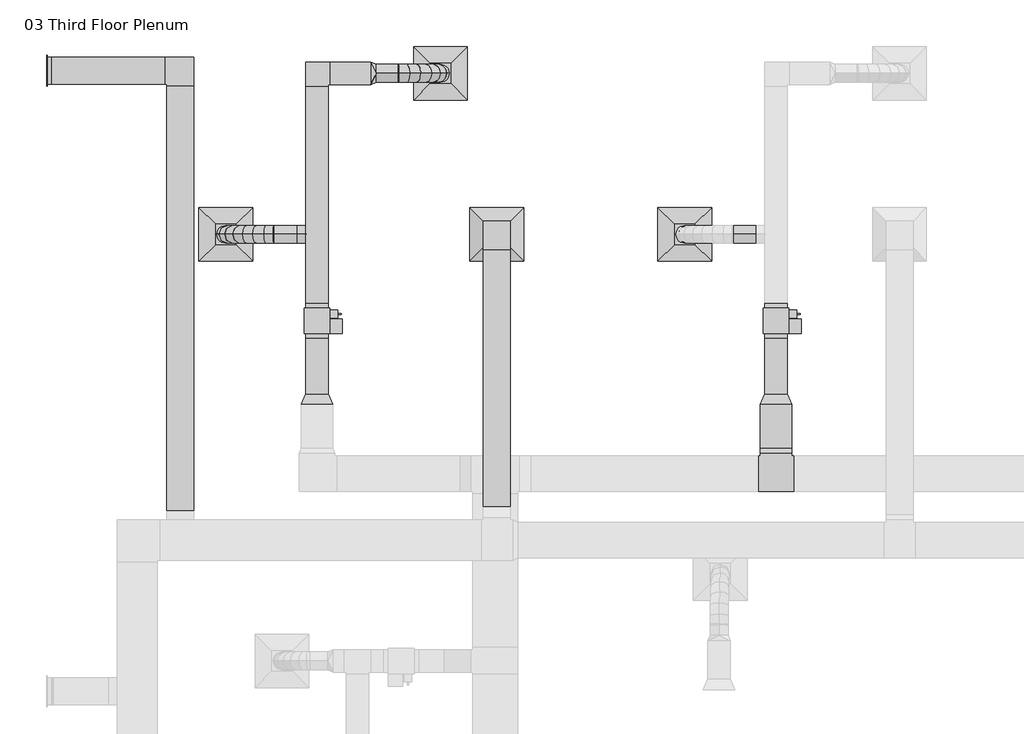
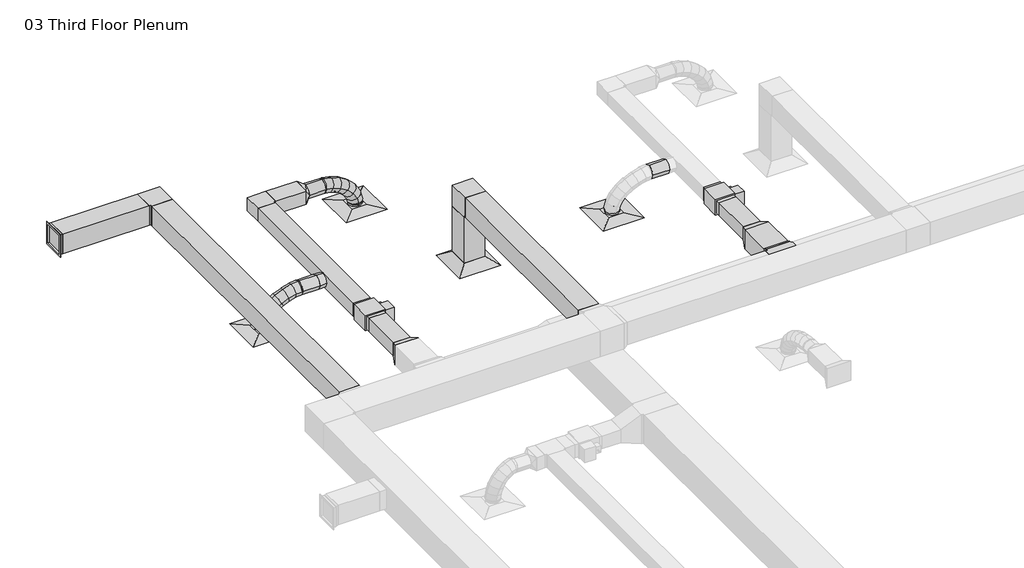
# One storey, part 5 of 9: 14 duct segments, 9 duct fittings, 5 air terminals, 2 proxies.
"""IFC4 building model written with IfcOpenShell, lengths in millimetres."""

from ifc_helpers import new_model, si_unit, point, frame, frame_2d, origin, place, context, project, spatial, polyline, circle_curve, ellipse_curve, trimmed, segment, composite_curve, outline, extrude, transform, mapped, element, save
from ifc_brep_helpers import plane_surface, cylinder_surface, advanced_brep
from components import return_diffuser_d30_returndiffuser_24x24_12x12_connection_ff543d60, return_grille_rectangular_hosted_d30_returngrille_5679211a, supply_diffuser_rectangular_face_round_neck_d30_6390248a, bcn6785_vav_d30_vav1_8c327968, rectangular_elbow_mitered_standard_f09b78ec, rectangular_elbow_mitered_standard_4ff1c4e8, rectangular_tee_standard_6c605370, rectangular_transition_angle_45_degree_183635ce, rectangular_transition_angle_45_degree_4f949d70, rectangular_transition_angle_45_degree_74625674, rectangular_to_round_transition_angle_45_degree_e9430680, round_takeoff_standard_1127d77f

model = new_model("IFC4")

# Units and contexts
model_context = context("Model", 3, world=origin())
ifc_project = project(units=[si_unit("LENGTHUNIT", "METRE", prefix="MILLI")], contexts=[model_context])

# Site, building, storey
site = spatial("IfcSite", under=ifc_project)
building = spatial("IfcBuilding", under=site)
storey = spatial("IfcBuildingStorey", under=building, Name="03 Third Floor Plenum", Elevation=7620.0)

# Air terminals
placement = place(None, origin())
return_diffuser_d30_returndiffuser_24x24_12x12_connection_shape = return_diffuser_d30_returndiffuser_24x24_12x12_connection_ff543d60(model_context)
element("IfcAirTerminal", 1, ObjectType="Return Diffuser : D30_ReturnDiffuser_24x24 12x12 Connection", at=placement, inside=storey, context=model_context, shape_type="MappedRepresentation", body=[
    mapped(return_diffuser_d30_returndiffuser_24x24_12x12_connection_shape, transform((-3890.7542617, 10036.7671675, 7620.0), x_axis=(1.0, 0.0, 0.0), y_axis=(0.0, 1.0, 0.0), z_axis=(0.0, 0.0, 1.0))),
])
return_grille_rectangular_hosted_d30_returngrille_shape = return_grille_rectangular_hosted_d30_returngrille_5679211a(model_context)
element("IfcAirTerminal", 2, ObjectType="Return Grille - Rectangular - Hosted : D30_ReturnGrille", at=placement, inside=storey, context=model_context, shape_type="MappedRepresentation", body=[
    mapped(return_grille_rectangular_hosted_d30_returngrille_shape, transform((-8996.1542617, 11896.5101985, 8610.3381149), x_axis=(0.0, 0.0, 1.0), y_axis=(0.0, 1.0, 0.0), z_axis=(-1.0, 0.0, 0.0))),
])
supply_diffuser_rectangular_face_round_neck_d30_shape = supply_diffuser_rectangular_face_round_neck_d30_6390248a(model_context)
element("IfcAirTerminal", 3, ObjectType="Supply Diffuser - Rectangular Face Round Neck : D30_SupplyDiffuser_24x24 8 Neck", at=placement, inside=storey, context=model_context, shape_type="MappedRepresentation", body=[
    mapped(supply_diffuser_rectangular_face_round_neck_d30_shape, transform((-1757.1542617, 10036.7671675, 7620.0), x_axis=(1.0, 0.0, 0.0), y_axis=(0.0, 1.0, 0.0), z_axis=(0.0, 0.0, 1.0))),
])
element("IfcAirTerminal", 4, ObjectType="Supply Diffuser - Rectangular Face Round Neck : D30_SupplyDiffuser_24x24 8 Neck", at=placement, inside=storey, context=model_context, shape_type="MappedRepresentation", body=[
    mapped(supply_diffuser_rectangular_face_round_neck_d30_shape, transform((-4530.5167617, 11865.5671675, 7620.0), x_axis=(1.0, 0.0, 0.0), y_axis=(0.0, 1.0, 0.0), z_axis=(0.0, 0.0, 1.0))),
])
element("IfcAirTerminal", 5, ObjectType="Supply Diffuser - Rectangular Face Round Neck : D30_SupplyDiffuser_24x24 8 Neck", at=placement, inside=storey, context=model_context, shape_type="MappedRepresentation", body=[
    mapped(supply_diffuser_rectangular_face_round_neck_d30_shape, transform((-6968.9167617, 10036.7671675, 7620.0), x_axis=(1.0, 0.0, 0.0), y_axis=(0.0, 1.0, 0.0), z_axis=(0.0, 0.0, 1.0))),
])

# Proxies
bcn6785_vav_d30_vav1_shape = bcn6785_vav_d30_vav1_8c327968(model_context)
element("IfcBuildingElementProxy", 6, Name="BCN6785_VAV : D30_VAV1", ObjectType="BCN6785_VAV : D30_VAV1", at=placement, inside=storey, context=model_context, shape_type="MappedRepresentation", body=[
    mapped(bcn6785_vav_d30_vav1_shape, transform((-720.748366, 8909.6421675, 7956.55), x_axis=(0.0, 1.0, 0.0), y_axis=(-1.0, 0.0, 0.0), z_axis=(0.0, 0.0, 1.0))),
])
element("IfcBuildingElementProxy", 7, Name="BCN6785_VAV : D30_VAV1", ObjectType="BCN6785_VAV : D30_VAV1", at=placement, inside=storey, context=model_context, shape_type="MappedRepresentation", body=[
    mapped(bcn6785_vav_d30_vav1_shape, transform((-5932.510866, 8909.6421675, 7956.55), x_axis=(0.0, 1.0, 0.0), y_axis=(-1.0, 0.0, 0.0), z_axis=(0.0, 0.0, 1.0))),
])

# Duct fittings
rectangular_elbow_mitered_standard_shape = rectangular_elbow_mitered_standard_f09b78ec(model_context)
element("IfcDuctFitting", 8, ObjectType="Rectangular Elbow - Mitered : Standard", at=placement, inside=storey, context=model_context, shape_type="MappedRepresentation", body=[
    mapped(rectangular_elbow_mitered_standard_shape, transform((-5932.510866, 11865.5671675, 8077.2), x_axis=(-1.0, 0.0, 0.0), y_axis=(0.0, -1.0, 0.0), z_axis=(0.0, 0.0, 1.0))),
])
rectangular_elbow_mitered_standard_2_shape = rectangular_elbow_mitered_standard_4ff1c4e8(model_context)
element("IfcDuctFitting", 9, ObjectType="Rectangular Elbow - Mitered : Standard", at=placement, inside=storey, context=model_context, shape_type="MappedRepresentation", body=[
    mapped(rectangular_elbow_mitered_standard_2_shape, transform((-3890.7542617, 10036.7671675, 8610.6), x_axis=(0.0, 0.0, 1.0), y_axis=(0.0, -1.0, 0.0), z_axis=(1.0, 0.0, 0.0))),
])
element("IfcDuctFitting", 10, ObjectType="Rectangular Elbow - Mitered : Standard", at=placement, inside=storey, context=model_context, shape_type="MappedRepresentation", body=[
    mapped(rectangular_elbow_mitered_standard_2_shape, transform((-7483.9216887, 11896.5101985, 8610.6), x_axis=(0.0, 1.0, 0.0), y_axis=(-0.9999999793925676, 0.0, -0.00020301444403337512), z_axis=(-0.00020301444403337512, 0.0, 0.9999999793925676))),
])
rectangular_tee_standard_shape = rectangular_tee_standard_6c605370(model_context)
element("IfcDuctFitting", 11, ObjectType="Rectangular Tee : Standard", at=placement, inside=storey, context=model_context, shape_type="MappedRepresentation", body=[
    mapped(rectangular_tee_standard_shape, transform((-720.748366, 7316.8809317, 8077.2), x_axis=(-1.0, 0.0, 0.0), y_axis=(0.0, -1.0, 0.0), z_axis=(0.0, 0.0, 1.0))),
])
rectangular_transition_angle_45_degree_shape = rectangular_transition_angle_45_degree_183635ce(model_context)
element("IfcDuctFitting", 12, ObjectType="Rectangular Transition - Angle : 45 Degree", at=placement, inside=storey, context=model_context, shape_type="MappedRepresentation", body=[
    mapped(rectangular_transition_angle_45_degree_shape, transform((-720.748366, 8101.2001185, 8077.2), x_axis=(0.0, 1.0, 0.0), y_axis=(-1.0, 0.0, 0.0), z_axis=(0.0, 0.0, 1.0))),
])
rectangular_transition_angle_45_degree_2_shape = rectangular_transition_angle_45_degree_4f949d70(model_context)
element("IfcDuctFitting", 13, ObjectType="Rectangular Transition - Angle : 45 Degree", at=placement, inside=storey, context=model_context, shape_type="MappedRepresentation", body=[
    mapped(rectangular_transition_angle_45_degree_2_shape, transform((-720.748366, 7545.4809317, 8077.2), x_axis=(0.0, 1.0, 0.0), y_axis=(-1.0, 0.0, 0.0), z_axis=(0.0, 0.0, 1.0))),
])
rectangular_transition_angle_45_degree_3_shape = rectangular_transition_angle_45_degree_74625674(model_context)
element("IfcDuctFitting", 14, ObjectType="Rectangular Transition - Angle : 45 Degree", at=placement, inside=storey, context=model_context, shape_type="MappedRepresentation", body=[
    mapped(rectangular_transition_angle_45_degree_3_shape, transform((-5932.510866, 8223.8421675, 8077.2), x_axis=(0.0, -1.0, 0.0), y_axis=(1.0, 0.0, 0.0), z_axis=(0.0, 0.0, 1.0))),
])
rectangular_to_round_transition_angle_45_degree_shape = rectangular_to_round_transition_angle_45_degree_e9430680(model_context)
element("IfcDuctFitting", 15, ObjectType="Rectangular to Round Transition - Angle : 45 Degree", at=placement, inside=storey, context=model_context, shape_type="MappedRepresentation", body=[
    mapped(rectangular_to_round_transition_angle_45_degree_shape, transform((-5322.910866, 11865.5671675, 8077.2), x_axis=(1.0, 0.0, 0.0), y_axis=(0.0, 1.0, 0.0), z_axis=(0.0, 0.0, 1.0))),
])
round_takeoff_standard_shape = round_takeoff_standard_1127d77f(model_context)
element("IfcDuctFitting", 16, ObjectType="Round Takeoff : Standard", at=placement, inside=storey, context=model_context, shape_type="MappedRepresentation", body=[
    mapped(round_takeoff_standard_shape, transform((-6059.510866, 10036.7671675, 8077.2), x_axis=(-1.0, 0.0, 0.0), y_axis=(0.0, 1.0, 0.0), z_axis=(0.0, 0.0, -1.0))),
])

# Duct segments
element("IfcDuctSegment", 17, ObjectType="Flex - Round", at=placement, inside=storey, context=model_context, shape_type="AdvancedBrep", body=[
    advanced_brep(
    [(-5018.110866, 11967.1671675, 8077.2), (-5018.110866, 11865.5671675, 7975.6), (-5018.110866, 11763.9671675, 8077.2), (-5018.110866, 11865.5671675, 8178.8), (-5004.1026235, 11967.1671675, 8077.2), (-5012.1622602, 11865.5671675, 7975.6), (-5004.1026235, 11763.9671675, 8077.2), (-4996.0429868, 11865.5671675, 8178.8), (-4530.5167617, 11967.1671675, 7673.975), (-4428.9167617, 11865.5671675, 7673.975), (-4530.5167617, 11763.9671675, 7673.975), (-4632.1167617, 11865.5671675, 7673.975), (-4908.760954, 11967.1671675, 8061.9778475), (-4935.2283444, 11865.5671675, 7963.3168105), (-4908.760954, 11763.9671675, 8061.9778475), (-4882.2935635, 11865.5671675, 8160.6388846), (-4797.960837, 11967.1671675, 8019.5285565), (-4843.6942183, 11865.5671675, 7928.2486277), (-4797.960837, 11763.9671675, 8019.5285565), (-4752.2274557, 11865.5671675, 8110.8084854), (-4695.2234372, 11967.1671675, 7954.6778766), (-4758.3367744, 11865.5671675, 7874.3686553), (-4695.2234372, 11763.9671675, 7954.6778766), (-4632.1100999, 11865.5671675, 8034.987098), (-4610.0616766, 11967.1671675, 7872.2515575), (-4690.0382413, 11865.5671675, 7808.2639076), (-4610.0616766, 11763.9671675, 7872.2515575), (-4530.085112, 11865.5671675, 7936.2392074), (-4551.9884774, 11967.1671675, 7777.0753487), (-4646.5245486, 11865.5671675, 7736.9492848), (-4551.9884774, 11763.9671675, 7777.0753487), (-4457.4524062, 11865.5671675, 7817.2014127), (-4530.5167617, 11967.1671675, 7694.6897958), (-4632.1167617, 11865.5671675, 7681.6675594), (-4530.5167617, 11763.9671675, 7694.6897958), (-4428.9167617, 11865.5671675, 7707.7120321)],
    [
        (0, 1, circle_curve(frame((-5018.110866, 11865.5671675, 8077.2), z_axis=(-1.0, 0.0, 0.0), x_axis=(0.0, 1.0, 0.0)), 101.6)),
        (1, 2, circle_curve(frame((-5018.110866, 11865.5671675, 8077.2), z_axis=(-1.0, 0.0, 0.0), x_axis=(0.0, 1.0, 0.0)), 101.6)),
        (2, 3, circle_curve(frame((-5018.110866, 11865.5671675, 8077.2), z_axis=(-1.0, 0.0, 0.0), x_axis=(0.0, 1.0, 0.0)), 101.6)),
        (3, 0, circle_curve(frame((-5018.110866, 11865.5671675, 8077.2), z_axis=(-1.0, 0.0, 0.0), x_axis=(0.0, 1.0, 0.0)), 101.6)),
        (0, 4),
        (4, 5, ellipse_curve(frame((-5004.1026235, 11865.5671675, 8077.2), z_axis=(-0.9968683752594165, 0.0, 0.07907871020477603), x_axis=(-0.07907871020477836, 0.0, -0.9968683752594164)), 101.9191726, 101.6)),
        (5, 1),
        (5, 6, ellipse_curve(frame((-5004.1026235, 11865.5671675, 8077.2), z_axis=(-0.9968683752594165, 0.0, 0.07907871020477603), x_axis=(-0.07907871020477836, 0.0, -0.9968683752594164)), 101.9191726, 101.6)),
        (6, 2),
        (6, 7, ellipse_curve(frame((-5004.1026235, 11865.5671675, 8077.2), z_axis=(-0.9968683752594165, 0.0, 0.07907871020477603), x_axis=(-0.07907871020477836, 0.0, -0.9968683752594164)), 101.9191726, 101.6)),
        (7, 3),
        (7, 4, ellipse_curve(frame((-5004.1026235, 11865.5671675, 8077.2), z_axis=(-0.9968683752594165, 0.0, 0.07907871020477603), x_axis=(-0.07907871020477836, 0.0, -0.9968683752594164)), 101.9191726, 101.6)),
        (8, 9, circle_curve(frame((-4530.5167617, 11865.5671675, 7673.975), z_axis=(0.0, 0.0, -1.0), x_axis=(0.0, 1.0, 0.0)), 101.6)),
        (9, 10, circle_curve(frame((-4530.5167617, 11865.5671675, 7673.975), z_axis=(0.0, 0.0, -1.0), x_axis=(0.0, 1.0, 0.0)), 101.6)),
        (10, 11, circle_curve(frame((-4530.5167617, 11865.5671675, 7673.975), z_axis=(0.0, 0.0, -1.0), x_axis=(0.0, 1.0, 0.0)), 101.6)),
        (11, 8, circle_curve(frame((-4530.5167617, 11865.5671675, 7673.975), z_axis=(0.0, 0.0, -1.0), x_axis=(0.0, 1.0, 0.0)), 101.6)),
        (4, 12),
        (12, 13, ellipse_curve(frame((-4908.760954, 11865.5671675, 8061.9778475), z_axis=(-0.9658493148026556, 0.0, 0.2591044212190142), x_axis=(-0.25910442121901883, 0.0, -0.9658493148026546)), 102.1495129, 101.6)),
        (13, 5),
        (13, 14, ellipse_curve(frame((-4908.760954, 11865.5671675, 8061.9778475), z_axis=(-0.9658493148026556, 0.0, 0.2591044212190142), x_axis=(-0.25910442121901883, 0.0, -0.9658493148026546)), 102.1495129, 101.6)),
        (14, 6),
        (14, 15, ellipse_curve(frame((-4908.760954, 11865.5671675, 8061.9778475), z_axis=(-0.9658493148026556, 0.0, 0.2591044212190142), x_axis=(-0.25910442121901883, 0.0, -0.9658493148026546)), 102.1495129, 101.6)),
        (15, 7),
        (15, 12, ellipse_curve(frame((-4908.760954, 11865.5671675, 8061.9778475), z_axis=(-0.9658493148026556, 0.0, 0.2591044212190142), x_axis=(-0.25910442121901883, 0.0, -0.9658493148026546)), 102.1495129, 101.6)),
        (12, 16),
        (16, 17, ellipse_curve(frame((-4797.960837, 11865.5671675, 8019.5285565), z_axis=(-0.8940608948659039, 0.0, 0.4479454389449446), x_axis=(-0.4479454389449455, 0.0, -0.8940608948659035)), 102.0958744, 101.6)),
        (17, 13),
        (17, 18, ellipse_curve(frame((-4797.960837, 11865.5671675, 8019.5285565), z_axis=(-0.8940608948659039, 0.0, 0.4479454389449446), x_axis=(-0.4479454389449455, 0.0, -0.8940608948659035)), 102.0958744, 101.6)),
        (18, 14),
        (18, 19, ellipse_curve(frame((-4797.960837, 11865.5671675, 8019.5285565), z_axis=(-0.8940608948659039, 0.0, 0.4479454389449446), x_axis=(-0.4479454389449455, 0.0, -0.8940608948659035)), 102.0958744, 101.6)),
        (19, 15),
        (19, 16, ellipse_curve(frame((-4797.960837, 11865.5671675, 8019.5285565), z_axis=(-0.8940608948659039, 0.0, 0.4479454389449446), x_axis=(-0.4479454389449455, 0.0, -0.8940608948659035)), 102.0958744, 101.6)),
        (16, 20),
        (20, 21, ellipse_curve(frame((-4695.2234372, 11865.5671675, 7954.6778766), z_axis=(-0.7862553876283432, 0.0, 0.6179016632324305), x_axis=(-0.6179016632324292, 0.0, -0.7862553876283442)), 102.141394, 101.6)),
        (21, 17),
        (21, 22, ellipse_curve(frame((-4695.2234372, 11865.5671675, 7954.6778766), z_axis=(-0.7862553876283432, 0.0, 0.6179016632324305), x_axis=(-0.6179016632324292, 0.0, -0.7862553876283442)), 102.141394, 101.6)),
        (22, 18),
        (22, 23, ellipse_curve(frame((-4695.2234372, 11865.5671675, 7954.6778766), z_axis=(-0.7862553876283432, 0.0, 0.6179016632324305), x_axis=(-0.6179016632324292, 0.0, -0.7862553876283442)), 102.141394, 101.6)),
        (23, 19),
        (23, 20, ellipse_curve(frame((-4695.2234372, 11865.5671675, 7954.6778766), z_axis=(-0.7862553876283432, 0.0, 0.6179016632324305), x_axis=(-0.6179016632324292, 0.0, -0.7862553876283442)), 102.141394, 101.6)),
        (20, 24),
        (24, 25, ellipse_curve(frame((-4610.0616766, 11865.5671675, 7872.2515575), z_axis=(-0.6247331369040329, 0.0, 0.7808383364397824), x_axis=(-0.780838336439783, 0.0, -0.6247331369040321)), 102.4239729, 101.6)),
        (25, 21),
        (25, 26, ellipse_curve(frame((-4610.0616766, 11865.5671675, 7872.2515575), z_axis=(-0.6247331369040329, 0.0, 0.7808383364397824), x_axis=(-0.780838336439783, 0.0, -0.6247331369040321)), 102.4239729, 101.6)),
        (26, 22),
        (26, 27, ellipse_curve(frame((-4610.0616766, 11865.5671675, 7872.2515575), z_axis=(-0.6247331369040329, 0.0, 0.7808383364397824), x_axis=(-0.780838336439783, 0.0, -0.6247331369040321)), 102.4239729, 101.6)),
        (27, 23),
        (27, 24, ellipse_curve(frame((-4610.0616766, 11865.5671675, 7872.2515575), z_axis=(-0.6247331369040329, 0.0, 0.7808383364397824), x_axis=(-0.780838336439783, 0.0, -0.6247331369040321)), 102.4239729, 101.6)),
        (24, 28),
        (28, 29, ellipse_curve(frame((-4551.9884774, 11865.5671675, 7777.0753487), z_axis=(-0.3907136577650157, 0.0, 0.9205122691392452), x_axis=(-0.9205122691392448, 0.0, -0.3907136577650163)), 102.6994146, 101.6)),
        (29, 25),
        (29, 30, ellipse_curve(frame((-4551.9884774, 11865.5671675, 7777.0753487), z_axis=(-0.3907136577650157, 0.0, 0.9205122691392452), x_axis=(-0.9205122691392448, 0.0, -0.3907136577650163)), 102.6994146, 101.6)),
        (30, 26),
        (30, 31, ellipse_curve(frame((-4551.9884774, 11865.5671675, 7777.0753487), z_axis=(-0.3907136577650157, 0.0, 0.9205122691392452), x_axis=(-0.9205122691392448, 0.0, -0.3907136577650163)), 102.6994146, 101.6)),
        (31, 27),
        (31, 28, ellipse_curve(frame((-4551.9884774, 11865.5671675, 7777.0753487), z_axis=(-0.3907136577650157, 0.0, 0.9205122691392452), x_axis=(-0.9205122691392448, 0.0, -0.3907136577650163)), 102.6994146, 101.6)),
        (28, 32),
        (32, 33, ellipse_curve(frame((-4530.5167617, 11865.5671675, 7694.6897958), z_axis=(-0.1271316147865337, 0.0, 0.9918858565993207), x_axis=(-0.9918858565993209, 0.0, -0.12713161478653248)), 102.431141, 101.6)),
        (33, 29),
        (33, 34, ellipse_curve(frame((-4530.5167617, 11865.5671675, 7694.6897958), z_axis=(-0.1271316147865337, 0.0, 0.9918858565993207), x_axis=(-0.9918858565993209, 0.0, -0.12713161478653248)), 102.431141, 101.6)),
        (34, 30),
        (34, 35, ellipse_curve(frame((-4530.5167617, 11865.5671675, 7694.6897958), z_axis=(-0.1271316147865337, 0.0, 0.9918858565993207), x_axis=(-0.9918858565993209, 0.0, -0.12713161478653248)), 102.431141, 101.6)),
        (35, 31),
        (35, 32, ellipse_curve(frame((-4530.5167617, 11865.5671675, 7694.6897958), z_axis=(-0.1271316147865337, 0.0, 0.9918858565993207), x_axis=(-0.9918858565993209, 0.0, -0.12713161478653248)), 102.431141, 101.6)),
        (32, 8),
        (11, 33),
        (10, 34),
        (9, 35),
    ],
    [
        plane_surface(frame((-5018.110866, 11865.5671675, 7975.6), z_axis=(-1.0, 0.0, 0.0), x_axis=(0.0, 1.0, 0.0))),
        cylinder_surface(frame((-5018.110866, 11865.5671675, 8077.2), z_axis=(-1.0, 0.0, 0.0), x_axis=(0.0, 1.0, 0.0)), 101.6),
        plane_surface(frame((-4530.5167617, 11763.9671675, 7673.975), z_axis=(0.0, 0.0, -1.0), x_axis=(-1.0, 0.0, 0.0))),
        cylinder_surface(frame((-5004.1026235, 11865.5671675, 8077.2), z_axis=(-0.9874931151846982, 0.0, 0.15766213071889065), x_axis=(0.0, 1.0, 0.0)), 101.6),
        cylinder_surface(frame((-4908.760954, 11865.5671675, 8061.9778475), z_axis=(-0.933813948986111, 0.0, 0.3577590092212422), x_axis=(0.0, 1.0, 0.0)), 101.6),
        cylinder_surface(frame((-4797.960837, 11865.5671675, 8019.5285565), z_axis=(-0.8456230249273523, 0.0, 0.5337805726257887), x_axis=(0.0, 1.0, 0.0)), 101.6),
        cylinder_surface(frame((-4695.2234372, 11865.5671675, 7954.6778766), z_axis=(-0.7185527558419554, 0.0, 0.6954724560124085), x_axis=(0.0, 1.0, 0.0)), 101.6),
        cylinder_surface(frame((-4610.0616766, 11865.5671675, 7872.2515575), z_axis=(-0.5208619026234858, 0.0, 0.8536409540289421), x_axis=(0.0, 1.0, 0.0)), 101.6),
        cylinder_surface(frame((-4551.9884774, 11865.5671675, 7777.0753487), z_axis=(-0.25220010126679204, 0.0, 0.9676751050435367), x_axis=(0.0, 1.0, 0.0)), 101.6),
        cylinder_surface(frame((-4530.5167617, 11865.5671675, 7694.6897958), z_axis=(0.0, 0.0, 1.0), x_axis=(0.0, 1.0, 0.0)), 101.6),
    ],
    [
        (0, [[1, 2, 3, 4]]),
        (1, [[-1, 5, 6, 7]]),
        (1, [[-2, -7, 8, 9]]),
        (1, [[-3, -9, 10, 11]]),
        (1, [[-4, -11, 12, -5]]),
        (2, [[13, 14, 15, 16]]),
        (3, [[-6, 17, 18, 19]]),
        (3, [[-8, -19, 20, 21]]),
        (3, [[-10, -21, 22, 23]]),
        (3, [[-12, -23, 24, -17]]),
        (4, [[-18, 25, 26, 27]]),
        (4, [[-20, -27, 28, 29]]),
        (4, [[-22, -29, 30, 31]]),
        (4, [[-24, -31, 32, -25]]),
        (5, [[-26, 33, 34, 35]]),
        (5, [[-28, -35, 36, 37]]),
        (5, [[-30, -37, 38, 39]]),
        (5, [[-32, -39, 40, -33]]),
        (6, [[-34, 41, 42, 43]]),
        (6, [[-36, -43, 44, 45]]),
        (6, [[-38, -45, 46, 47]]),
        (6, [[-40, -47, 48, -41]]),
        (7, [[-42, 49, 50, 51]]),
        (7, [[-44, -51, 52, 53]]),
        (7, [[-46, -53, 54, 55]]),
        (7, [[-48, -55, 56, -49]]),
        (8, [[-50, 57, 58, 59]]),
        (8, [[-52, -59, 60, 61]]),
        (8, [[-54, -61, 62, 63]]),
        (8, [[-56, -63, 64, -57]]),
        (9, [[-58, 65, -16, 66]]),
        (9, [[-60, -66, -15, 67]]),
        (9, [[-62, -67, -14, 68]]),
        (9, [[-64, -68, -13, -65]]),
    ],
),
])
element("IfcDuctSegment", 18, ObjectType="Flex - Round", at=placement, inside=storey, context=model_context, shape_type="AdvancedBrep", body=[
    advanced_brep(
    [(-6415.110866, 9935.1671675, 8077.2), (-6415.110866, 10036.7671675, 7975.6), (-6415.110866, 10138.3671675, 8077.2), (-6415.110866, 10036.7671675, 8178.8), (-6425.313114, 9935.1671675, 8077.2), (-6419.6375929, 10036.7671675, 7975.6), (-6425.313114, 10138.3671675, 8077.2), (-6430.9886351, 10036.7671675, 8178.8), (-6968.9167617, 9935.1671675, 7673.975), (-7070.5167617, 10036.7671675, 7673.975), (-6968.9167617, 10138.3671675, 7673.975), (-6867.3167617, 10036.7671675, 7673.975), (-6517.6882887, 9935.1671675, 8066.847276), (-6498.355884, 10036.7671675, 7966.7778382), (-6517.6882887, 10138.3671675, 8066.847276), (-6537.0206935, 10036.7671675, 8166.9167138), (-6624.7645777, 9935.1671675, 8037.2048655), (-6590.1922131, 10036.7671675, 7941.3543743), (-6624.7645777, 10138.3671675, 8037.2048655), (-6659.3369422, 10036.7671675, 8133.0553568), (-6728.9479541, 9935.1671675, 7990.396411), (-6679.8703152, 10036.7671675, 7901.0629813), (-6728.9479541, 10138.3671675, 7990.396411), (-6778.025593, 10036.7671675, 8079.7298408), (-6822.8466394, 9935.1671675, 7928.5455549), (-6758.7314142, 10036.7671675, 7849.1173499), (-6822.8466394, 10138.3671675, 7928.5455549), (-6886.9618646, 10036.7671675, 8007.9737598), (-6899.0688549, 9935.1671675, 7853.7759394), (-6818.5794244, 10036.7671675, 7790.4098894), (-6899.0688549, 10138.3671675, 7853.7759394), (-6979.5582854, 10036.7671675, 7917.1419893), (-6950.2228219, 9935.1671675, 7768.211207), (-6855.3291037, 10036.7671675, 7728.9390659), (-6950.2228219, 10138.3671675, 7768.211207), (-7045.11654, 10036.7671675, 7807.483348), (-6968.9167617, 9935.1671675, 7693.7444887), (-6867.3167617, 10036.7671675, 7681.1866092), (-6968.9167617, 10138.3671675, 7693.7444887), (-7070.5167617, 10036.7671675, 7706.3023681)],
    [
        (0, 1, circle_curve(frame((-6415.110866, 10036.7671675, 8077.2), z_axis=(1.0, 0.0, 0.0), x_axis=(0.0, -1.0, 0.0)), 101.6)),
        (1, 2, circle_curve(frame((-6415.110866, 10036.7671675, 8077.2), z_axis=(1.0, 0.0, 0.0), x_axis=(0.0, -1.0, 0.0)), 101.6)),
        (2, 3, circle_curve(frame((-6415.110866, 10036.7671675, 8077.2), z_axis=(1.0, 0.0, 0.0), x_axis=(0.0, -1.0, 0.0)), 101.6)),
        (3, 0, circle_curve(frame((-6415.110866, 10036.7671675, 8077.2), z_axis=(1.0, 0.0, 0.0), x_axis=(0.0, -1.0, 0.0)), 101.6)),
        (0, 4),
        (4, 5, ellipse_curve(frame((-6425.313114, 10036.7671675, 8077.2), z_axis=(0.9984433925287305, 0.0, 0.05577447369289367), x_axis=(0.05577447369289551, 0.0, -0.9984433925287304)), 101.7583979, 101.6)),
        (5, 1),
        (5, 6, ellipse_curve(frame((-6425.313114, 10036.7671675, 8077.2), z_axis=(0.9984433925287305, 0.0, 0.05577447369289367), x_axis=(0.05577447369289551, 0.0, -0.9984433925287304)), 101.7583979, 101.6)),
        (6, 2),
        (6, 7, ellipse_curve(frame((-6425.313114, 10036.7671675, 8077.2), z_axis=(0.9984433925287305, 0.0, 0.05577447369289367), x_axis=(0.05577447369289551, 0.0, -0.9984433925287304)), 101.7583979, 101.6)),
        (7, 3),
        (7, 4, ellipse_curve(frame((-6425.313114, 10036.7671675, 8077.2), z_axis=(0.9984433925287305, 0.0, 0.05577447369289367), x_axis=(0.05577447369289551, 0.0, -0.9984433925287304)), 101.7583979, 101.6)),
        (8, 9, circle_curve(frame((-6968.9167617, 10036.7671675, 7673.975), z_axis=(0.0, 0.0, -1.0), x_axis=(0.0, -1.0, 0.0)), 101.6)),
        (9, 10, circle_curve(frame((-6968.9167617, 10036.7671675, 7673.975), z_axis=(0.0, 0.0, -1.0), x_axis=(0.0, -1.0, 0.0)), 101.6)),
        (10, 11, circle_curve(frame((-6968.9167617, 10036.7671675, 7673.975), z_axis=(0.0, 0.0, -1.0), x_axis=(0.0, -1.0, 0.0)), 101.6)),
        (11, 8, circle_curve(frame((-6968.9167617, 10036.7671675, 7673.975), z_axis=(0.0, 0.0, -1.0), x_axis=(0.0, -1.0, 0.0)), 101.6)),
        (4, 12),
        (12, 13, ellipse_curve(frame((-6517.6882887, 10036.7671675, 8066.847276), z_axis=(0.9818454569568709, 0.0, 0.18968262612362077), x_axis=(0.18968262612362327, 0.0, -0.9818454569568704)), 101.9197442, 101.6)),
        (13, 5),
        (13, 14, ellipse_curve(frame((-6517.6882887, 10036.7671675, 8066.847276), z_axis=(0.9818454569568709, 0.0, 0.18968262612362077), x_axis=(0.18968262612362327, 0.0, -0.9818454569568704)), 101.9197442, 101.6)),
        (14, 6),
        (14, 15, ellipse_curve(frame((-6517.6882887, 10036.7671675, 8066.847276), z_axis=(0.9818454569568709, 0.0, 0.18968262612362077), x_axis=(0.18968262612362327, 0.0, -0.9818454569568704)), 101.9197442, 101.6)),
        (15, 7),
        (15, 12, ellipse_curve(frame((-6517.6882887, 10036.7671675, 8066.847276), z_axis=(0.9818454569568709, 0.0, 0.18968262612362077), x_axis=(0.18968262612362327, 0.0, -0.9818454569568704)), 101.9197442, 101.6)),
        (12, 16),
        (16, 17, ellipse_curve(frame((-6624.7645777, 10036.7671675, 8037.2048655), z_axis=(0.9406802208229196, 0.0, 0.3392944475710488), x_axis=(0.33929444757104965, 0.0, -0.9406802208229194)), 101.8948726, 101.6)),
        (17, 13),
        (17, 18, ellipse_curve(frame((-6624.7645777, 10036.7671675, 8037.2048655), z_axis=(0.9406802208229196, 0.0, 0.3392944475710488), x_axis=(0.33929444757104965, 0.0, -0.9406802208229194)), 101.8948726, 101.6)),
        (18, 14),
        (18, 19, ellipse_curve(frame((-6624.7645777, 10036.7671675, 8037.2048655), z_axis=(0.9406802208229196, 0.0, 0.3392944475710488), x_axis=(0.33929444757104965, 0.0, -0.9406802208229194)), 101.8948726, 101.6)),
        (19, 15),
        (19, 16, ellipse_curve(frame((-6624.7645777, 10036.7671675, 8037.2048655), z_axis=(0.9406802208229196, 0.0, 0.3392944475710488), x_axis=(0.33929444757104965, 0.0, -0.9406802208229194)), 101.8948726, 101.6)),
        (16, 20),
        (20, 21, ellipse_curve(frame((-6728.9479541, 10036.7671675, 7990.396411), z_axis=(0.8764467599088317, 0.0, 0.48149878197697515), x_axis=(0.4814987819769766, 0.0, -0.8764467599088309)), 101.9268184, 101.6)),
        (21, 17),
        (21, 22, ellipse_curve(frame((-6728.9479541, 10036.7671675, 7990.396411), z_axis=(0.8764467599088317, 0.0, 0.48149878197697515), x_axis=(0.4814987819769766, 0.0, -0.8764467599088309)), 101.9268184, 101.6)),
        (22, 18),
        (22, 23, ellipse_curve(frame((-6728.9479541, 10036.7671675, 7990.396411), z_axis=(0.8764467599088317, 0.0, 0.48149878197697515), x_axis=(0.4814987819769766, 0.0, -0.8764467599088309)), 101.9268184, 101.6)),
        (23, 19),
        (23, 20, ellipse_curve(frame((-6728.9479541, 10036.7671675, 7990.396411), z_axis=(0.8764467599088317, 0.0, 0.48149878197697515), x_axis=(0.4814987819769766, 0.0, -0.8764467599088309)), 101.9268184, 101.6)),
        (20, 24),
        (24, 25, ellipse_curve(frame((-6822.8466394, 10036.7671675, 7928.5455549), z_axis=(0.7781246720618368, 0.0, 0.6281098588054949), x_axis=(0.628109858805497, 0.0, -0.7781246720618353)), 102.0764509, 101.6)),
        (25, 21),
        (25, 26, ellipse_curve(frame((-6822.8466394, 10036.7671675, 7928.5455549), z_axis=(0.7781246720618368, 0.0, 0.6281098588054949), x_axis=(0.628109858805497, 0.0, -0.7781246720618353)), 102.0764509, 101.6)),
        (26, 22),
        (26, 27, ellipse_curve(frame((-6822.8466394, 10036.7671675, 7928.5455549), z_axis=(0.7781246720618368, 0.0, 0.6281098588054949), x_axis=(0.628109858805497, 0.0, -0.7781246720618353)), 102.0764509, 101.6)),
        (27, 23),
        (27, 24, ellipse_curve(frame((-6822.8466394, 10036.7671675, 7928.5455549), z_axis=(0.7781246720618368, 0.0, 0.6281098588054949), x_axis=(0.628109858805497, 0.0, -0.7781246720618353)), 102.0764509, 101.6)),
        (24, 28),
        (28, 29, ellipse_curve(frame((-6899.0688549, 10036.7671675, 7853.7759394), z_axis=(0.6185718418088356, 0.0, 0.7857282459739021), x_axis=(0.7857282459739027, 0.0, -0.6185718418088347)), 102.4392733, 101.6)),
        (29, 25),
        (29, 30, ellipse_curve(frame((-6899.0688549, 10036.7671675, 7853.7759394), z_axis=(0.6185718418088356, 0.0, 0.7857282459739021), x_axis=(0.7857282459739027, 0.0, -0.6185718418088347)), 102.4392733, 101.6)),
        (30, 26),
        (30, 31, ellipse_curve(frame((-6899.0688549, 10036.7671675, 7853.7759394), z_axis=(0.6185718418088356, 0.0, 0.7857282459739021), x_axis=(0.7857282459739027, 0.0, -0.6185718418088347)), 102.4392733, 101.6)),
        (31, 27),
        (31, 28, ellipse_curve(frame((-6899.0688549, 10036.7671675, 7853.7759394), z_axis=(0.6185718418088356, 0.0, 0.7857282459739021), x_axis=(0.7857282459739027, 0.0, -0.6185718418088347)), 102.4392733, 101.6)),
        (28, 32),
        (32, 33, ellipse_curve(frame((-6950.2228219, 10036.7671675, 7768.211207), z_axis=(0.382399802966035, 0.0, 0.9239969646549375), x_axis=(0.9239969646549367, 0.0, -0.38239980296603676)), 102.6991666, 101.6)),
        (33, 29),
        (33, 34, ellipse_curve(frame((-6950.2228219, 10036.7671675, 7768.211207), z_axis=(0.382399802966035, 0.0, 0.9239969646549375), x_axis=(0.9239969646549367, 0.0, -0.38239980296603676)), 102.6991666, 101.6)),
        (34, 30),
        (34, 35, ellipse_curve(frame((-6950.2228219, 10036.7671675, 7768.211207), z_axis=(0.382399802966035, 0.0, 0.9239969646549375), x_axis=(0.9239969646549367, 0.0, -0.38239980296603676)), 102.6991666, 101.6)),
        (35, 31),
        (35, 32, ellipse_curve(frame((-6950.2228219, 10036.7671675, 7768.211207), z_axis=(0.382399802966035, 0.0, 0.9239969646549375), x_axis=(0.9239969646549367, 0.0, -0.38239980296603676)), 102.6991666, 101.6)),
        (32, 36),
        (36, 37, ellipse_curve(frame((-6968.9167617, 10036.7671675, 7693.7444887), z_axis=(0.1226677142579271, 0.0, 0.992447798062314), x_axis=(0.992447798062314, 0.0, -0.12266771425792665)), 102.3731426, 101.6)),
        (37, 33),
        (37, 38, ellipse_curve(frame((-6968.9167617, 10036.7671675, 7693.7444887), z_axis=(0.1226677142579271, 0.0, 0.992447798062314), x_axis=(0.992447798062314, 0.0, -0.12266771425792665)), 102.3731426, 101.6)),
        (38, 34),
        (38, 39, ellipse_curve(frame((-6968.9167617, 10036.7671675, 7693.7444887), z_axis=(0.1226677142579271, 0.0, 0.992447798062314), x_axis=(0.992447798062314, 0.0, -0.12266771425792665)), 102.3731426, 101.6)),
        (39, 35),
        (39, 36, ellipse_curve(frame((-6968.9167617, 10036.7671675, 7693.7444887), z_axis=(0.1226677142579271, 0.0, 0.992447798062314), x_axis=(0.992447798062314, 0.0, -0.12266771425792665)), 102.3731426, 101.6)),
        (36, 8),
        (11, 37),
        (10, 38),
        (9, 39),
    ],
    [
        plane_surface(frame((-6415.110866, 10036.7671675, 7975.6), z_axis=(1.0, 0.0, 0.0), x_axis=(0.0, -1.0, 0.0))),
        cylinder_surface(frame((-6415.110866, 10036.7671675, 8077.2), z_axis=(1.0, 0.0, 0.0), x_axis=(0.0, -1.0, 0.0)), 101.6),
        plane_surface(frame((-6968.9167617, 9935.1671675, 7673.975), z_axis=(0.0, 0.0, -1.0), x_axis=(-1.0, 0.0, 0.0))),
        cylinder_surface(frame((-6425.313114, 10036.7671675, 8077.2), z_axis=(0.9937784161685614, 0.0, 0.11137530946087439), x_axis=(0.0, -1.0, 0.0)), 101.6),
        cylinder_surface(frame((-6517.6882887, 10036.7671675, 8066.847276), z_axis=(0.9637519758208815, 0.0, 0.2667997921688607), x_axis=(0.0, -1.0, 0.0)), 101.6),
        cylinder_surface(frame((-6624.7645777, 10036.7671675, 8037.2048655), z_axis=(0.9121640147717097, 0.0, 0.40982534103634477), x_axis=(0.0, -1.0, 0.0)), 101.6),
        cylinder_surface(frame((-6728.9479541, 10036.7671675, 7990.396411), z_axis=(0.835109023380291, 0.0, 0.5500844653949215), x_axis=(0.0, -1.0, 0.0)), 101.6),
        cylinder_surface(frame((-6822.8466394, 10036.7671675, 7928.5455549), z_axis=(0.7138763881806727, 0.0, 0.7002717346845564), x_axis=(0.0, -1.0, 0.0)), 101.6),
        cylinder_surface(frame((-6899.0688549, 10036.7671675, 7853.7759394), z_axis=(0.5131315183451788, 0.0, 0.8583099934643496), x_axis=(0.0, -1.0, 0.0)), 101.6),
        cylinder_surface(frame((-6950.2228219, 10036.7671675, 7768.211207), z_axis=(0.24348260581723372, 0.0, 0.9699052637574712), x_axis=(0.0, -1.0, 0.0)), 101.6),
        cylinder_surface(frame((-6968.9167617, 10036.7671675, 7693.7444887), z_axis=(0.0, 0.0, 1.0), x_axis=(0.0, -1.0, 0.0)), 101.6),
    ],
    [
        (0, [[1, 2, 3, 4]]),
        (1, [[-1, 5, 6, 7]]),
        (1, [[-2, -7, 8, 9]]),
        (1, [[-3, -9, 10, 11]]),
        (1, [[-4, -11, 12, -5]]),
        (2, [[13, 14, 15, 16]]),
        (3, [[-6, 17, 18, 19]]),
        (3, [[-8, -19, 20, 21]]),
        (3, [[-10, -21, 22, 23]]),
        (3, [[-12, -23, 24, -17]]),
        (4, [[-18, 25, 26, 27]]),
        (4, [[-20, -27, 28, 29]]),
        (4, [[-22, -29, 30, 31]]),
        (4, [[-24, -31, 32, -25]]),
        (5, [[-26, 33, 34, 35]]),
        (5, [[-28, -35, 36, 37]]),
        (5, [[-30, -37, 38, 39]]),
        (5, [[-32, -39, 40, -33]]),
        (6, [[-34, 41, 42, 43]]),
        (6, [[-36, -43, 44, 45]]),
        (6, [[-38, -45, 46, 47]]),
        (6, [[-40, -47, 48, -41]]),
        (7, [[-42, 49, 50, 51]]),
        (7, [[-44, -51, 52, 53]]),
        (7, [[-46, -53, 54, 55]]),
        (7, [[-48, -55, 56, -49]]),
        (8, [[-50, 57, 58, 59]]),
        (8, [[-52, -59, 60, 61]]),
        (8, [[-54, -61, 62, 63]]),
        (8, [[-56, -63, 64, -57]]),
        (9, [[-58, 65, 66, 67]]),
        (9, [[-60, -67, 68, 69]]),
        (9, [[-62, -69, 70, 71]]),
        (9, [[-64, -71, 72, -65]]),
        (10, [[-66, 73, -16, 74]]),
        (10, [[-68, -74, -15, 75]]),
        (10, [[-70, -75, -14, 76]]),
        (10, [[-72, -76, -13, -73]]),
    ],
),
])
element("IfcDuctSegment", 19, ObjectType="Mitered Elbows / Taps", at=placement, inside=storey, context=model_context, shape_type="SweptSolid", body=[
    extrude(outline(polyline([(-7331.5216887, 6892.7101985), (-7636.3216887, 6892.7101985), (-7636.3216887, 11718.7101985), (-7331.5216887, 11718.7101985), (-7331.5216887, 6892.7101985)])), frame((0.0, 0.0, 8458.2), z_axis=(0.0, 0.0, 1.0), x_axis=(1.0, 0.0, 0.0)), (0.0, 0.0, 1.0), 304.8),
])
element("IfcDuctSegment", 20, ObjectType="Mitered Elbows / Taps", at=placement, inside=storey, context=model_context, shape_type="SweptSolid", body=[
    extrude(outline(polyline([(0.0, -304.8), (0.0, 0.0), (1289.9825965, 0.0), (1289.9825965, -304.8), (0.0, -304.8)])), frame((-8951.6775867, 12048.9101985, 8457.9381172), z_axis=(-0.00017503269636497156, 0.0, 0.9999999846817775), x_axis=(0.9999999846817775, 0.0, 0.00017503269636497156)), (0.0, 0.0, 1.0), 304.8),
])
element("IfcDuctSegment", 21, ObjectType="Mitered Elbows / Tees", at=placement, inside=storey, context=model_context, shape_type="SweptSolid", body=[
    extrude(outline(polyline([(-847.748366, 8858.8421675), (-593.748366, 8858.8421675), (-593.748366, 8223.8421675), (-847.748366, 8223.8421675), (-847.748366, 8858.8421675)])), frame((0.0, 0.0, 7975.6), z_axis=(0.0, 0.0, 1.0), x_axis=(1.0, 0.0, 0.0)), (0.0, 0.0, 1.0), 203.2),
])
element("IfcDuctSegment", 22, ObjectType="Mitered Elbows / Tees", at=placement, inside=storey, context=model_context, shape_type="SweptSolid", body=[
    extrude(outline(polyline([(-542.948366, 7606.8019562), (-898.548366, 7606.8019562), (-898.548366, 8101.2001185), (-542.948366, 8101.2001185), (-542.948366, 7606.8019562)])), frame((0.0, 0.0, 7924.8), z_axis=(0.0, 0.0, 1.0), x_axis=(1.0, 0.0, 0.0)), (0.0, 0.0, 1.0), 304.8),
])
element("IfcDuctSegment", 23, ObjectType="Mitered Elbows / Tees", at=placement, inside=storey, context=model_context, shape_type="SweptSolid", body=[
    extrude(outline(polyline([(-6059.510866, 11713.1671675), (-5805.510866, 11713.1671675), (-5805.510866, 9252.5421675), (-6059.510866, 9252.5421675), (-6059.510866, 11713.1671675)])), frame((0.0, 0.0, 7975.6), z_axis=(0.0, 0.0, 1.0), x_axis=(1.0, 0.0, 0.0)), (0.0, 0.0, 1.0), 203.2),
])
element("IfcDuctSegment", 24, ObjectType="Mitered Elbows / Tees", at=placement, inside=storey, context=model_context, shape_type="SweptSolid", body=[
    extrude(outline(polyline([(-5780.110866, 11738.5671675), (-5780.110866, 11992.5671675), (-5322.910866, 11992.5671675), (-5322.910866, 11738.5671675), (-5780.110866, 11738.5671675)])), frame((0.0, 0.0, 7975.6), z_axis=(0.0, 0.0, 1.0), x_axis=(1.0, 0.0, 0.0)), (0.0, 0.0, 1.0), 203.2),
])
element("IfcDuctSegment", 25, ObjectType="Mitered Elbows / Tees", at=placement, inside=storey, context=model_context, shape_type="SweptSolid", body=[
    extrude(outline(polyline([(-6059.510866, 8858.8421675), (-5805.510866, 8858.8421675), (-5805.510866, 8223.8421675), (-6059.510866, 8223.8421675), (-6059.510866, 8858.8421675)])), frame((0.0, 0.0, 7975.6), z_axis=(0.0, 0.0, 1.0), x_axis=(1.0, 0.0, 0.0)), (0.0, 0.0, 1.0), 203.2),
])
element("IfcDuctSegment", 26, ObjectType="Mitered Elbows / Tees", at=placement, inside=storey, context=model_context, shape_type="SweptSolid", body=[
    extrude(outline(polyline([(-3738.3542617, 6939.1522475), (-4043.1542617, 6939.1522475), (-4043.1542617, 9858.9671675), (-3738.3542617, 9858.9671675), (-3738.3542617, 6939.1522475)])), frame((0.0, 0.0, 8458.2), z_axis=(0.0, 0.0, 1.0), x_axis=(1.0, 0.0, 0.0)), (0.0, 0.0, 1.0), 304.8),
])
element("IfcDuctSegment", 27, ObjectType="Mitered Elbows / Tees", at=placement, inside=storey, context=model_context, shape_type="SweptSolid", body=[
    extrude(outline(polyline([(-3738.3542617, 9884.3671675), (-4043.1542617, 9884.3671675), (-4043.1542617, 10189.1671675), (-3738.3542617, 10189.1671675), (-3738.3542617, 9884.3671675)])), frame((0.0, 0.0, 7721.6), z_axis=(0.0, 0.0, 1.0), x_axis=(1.0, 0.0, 0.0)), (0.0, 0.0, 1.0), 711.2),
])
element("IfcDuctSegment", 28, ObjectType="Taps", at=placement, inside=storey, context=model_context, shape_type="SweptSolid", body=[
    extrude(outline(composite_curve([segment(trimmed(circle_curve(frame_2d((10036.7671675, 8077.2)), 101.6), [point((10138.3671675, 8077.2))], [point((10036.7671675, 7975.6))], False, "CARTESIAN"), True, "CONTINUOUS"), segment(trimmed(circle_curve(frame_2d((10036.7671675, 8077.2)), 101.6), [point((10036.7671675, 7975.6))], [point((9935.1671675, 8077.2))], False, "CARTESIAN"), True, "CONTINUOUS"), segment(trimmed(circle_curve(frame_2d((10036.7671675, 8077.2)), 101.6), [point((9935.1671675, 8077.2))], [point((10036.7671675, 8178.8))], False, "CARTESIAN"), True, "CONTINUOUS"), segment(trimmed(circle_curve(frame_2d((10036.7671675, 8077.2)), 101.6), [point((10036.7671675, 8178.8))], [point((10138.3671675, 8077.2))], False, "CARTESIAN"), True, "CONTINUOUS")], self_intersect=False)), frame((-1203.348366, 0.0, 0.0), z_axis=(1.0, 0.0, 0.0), x_axis=(0.0, 1.0, 0.0)), (0.0, 0.0, 1.0), 254.0),
])
element("IfcDuctSegment", 29, ObjectType="Taps", at=placement, inside=storey, context=model_context, shape_type="SweptSolid", body=[
    extrude(outline(composite_curve([segment(trimmed(circle_curve(frame_2d((11865.5671675, 8077.2)), 101.6), [point((11763.9671675, 8077.2))], [point((11865.5671675, 8178.8))], False, "CARTESIAN"), True, "CONTINUOUS"), segment(trimmed(circle_curve(frame_2d((11865.5671675, 8077.2)), 101.6), [point((11865.5671675, 8178.8))], [point((11967.1671675, 8077.2))], False, "CARTESIAN"), True, "CONTINUOUS"), segment(trimmed(circle_curve(frame_2d((11865.5671675, 8077.2)), 101.6), [point((11967.1671675, 8077.2))], [point((11865.5671675, 7975.6))], False, "CARTESIAN"), True, "CONTINUOUS"), segment(trimmed(circle_curve(frame_2d((11865.5671675, 8077.2)), 101.6), [point((11865.5671675, 7975.6))], [point((11763.9671675, 8077.2))], False, "CARTESIAN"), True, "CONTINUOUS")], self_intersect=False)), frame((-5261.5898415, 0.0, 0.0), z_axis=(1.0, 0.0, 0.0), x_axis=(0.0, 1.0, 0.0)), (0.0, 0.0, 1.0), 243.4789755),
])
element("IfcDuctSegment", 30, ObjectType="Taps", at=placement, inside=storey, context=model_context, shape_type="SweptSolid", body=[
    extrude(outline(composite_curve([segment(trimmed(circle_curve(frame_2d((10036.7671675, 8077.2)), 101.6), [point((10138.3671675, 8077.2))], [point((10036.7671675, 7975.6))], False, "CARTESIAN"), True, "CONTINUOUS"), segment(trimmed(circle_curve(frame_2d((10036.7671675, 8077.2)), 101.6), [point((10036.7671675, 7975.6))], [point((9935.1671675, 8077.2))], False, "CARTESIAN"), True, "CONTINUOUS"), segment(trimmed(circle_curve(frame_2d((10036.7671675, 8077.2)), 101.6), [point((9935.1671675, 8077.2))], [point((10036.7671675, 8178.8))], False, "CARTESIAN"), True, "CONTINUOUS"), segment(trimmed(circle_curve(frame_2d((10036.7671675, 8077.2)), 101.6), [point((10036.7671675, 8178.8))], [point((10138.3671675, 8077.2))], False, "CARTESIAN"), True, "CONTINUOUS")], self_intersect=False)), frame((-6415.110866, 0.0, 0.0), z_axis=(1.0, 0.0, 0.0), x_axis=(0.0, 1.0, 0.0)), (0.0, 0.0, 1.0), 254.0),
])

save(model, "model.ifc")
